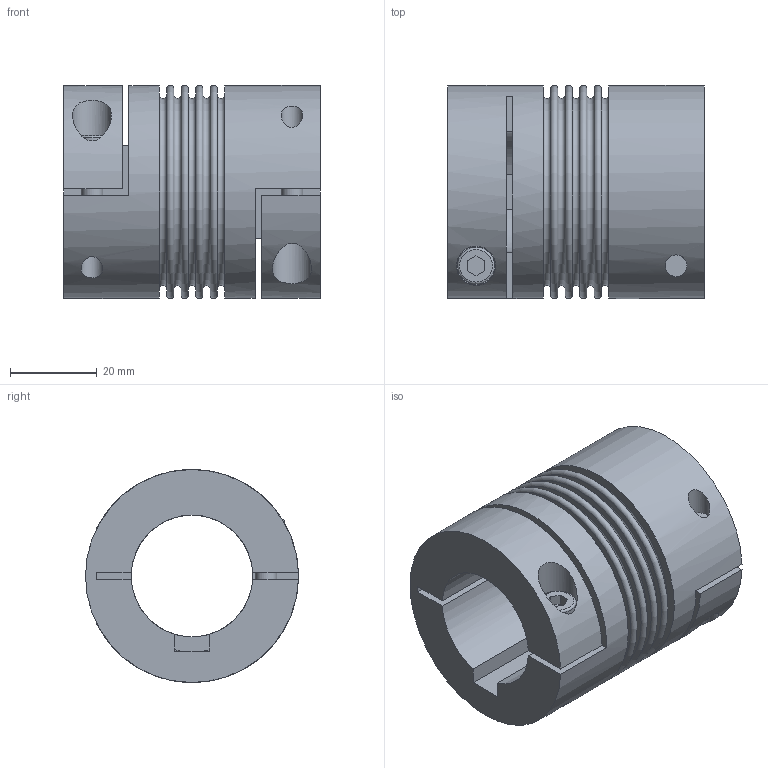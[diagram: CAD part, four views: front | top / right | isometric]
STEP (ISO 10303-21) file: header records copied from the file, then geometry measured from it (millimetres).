
FILE_DESCRIPTION(/* description */ ('STEP AP203'),/* implementation_level */ '2;1');
FILE_NAME(/* name */ 'C:\Diequa Files\DieQua Coupling\Website Step Files\BC.15.59.#.#.stp',/* time_stamp */ '2020-02-17T09:45:51-06:00',/* author */ ('DiequaCAD'),/* organization */ (''),/* preprocessor_version */ 'ST-DEVELOPER v18',/* originating_system */ 'Autodesk Inventor 2020',/* authorisation */ ' ');
FILE_SCHEMA (('AUTOMOTIVE_DESIGN { 1 0 10303 214 3 1 1 }'));
Length unit declared in the file: millimetre
Products named in the file (1): BC.15.59.#.#
Bounding box: 59 x 49 x 49 mm (x, y, z)
Volume: 61373.2 mm3; surface area: 25262.8 mm2
Topology: 1 solids, 1 shells, 86 faces, 214 edges, 146 vertices
Faces by surface type: plane 60, cylinder 15, torus 11
Full cylindrical faces by diameter (mm): 5 x4, 8.5 x2, 9 x2, 35 x1, 49 x2
Entity records: 2802 total; most frequent: CARTESIAN_POINT 597, DIRECTION 475, ORIENTED_EDGE 428, EDGE_CURVE 214, AXIS2_PLACEMENT_3D 180, VERTEX_POINT 146, LINE 115, VECTOR 115
